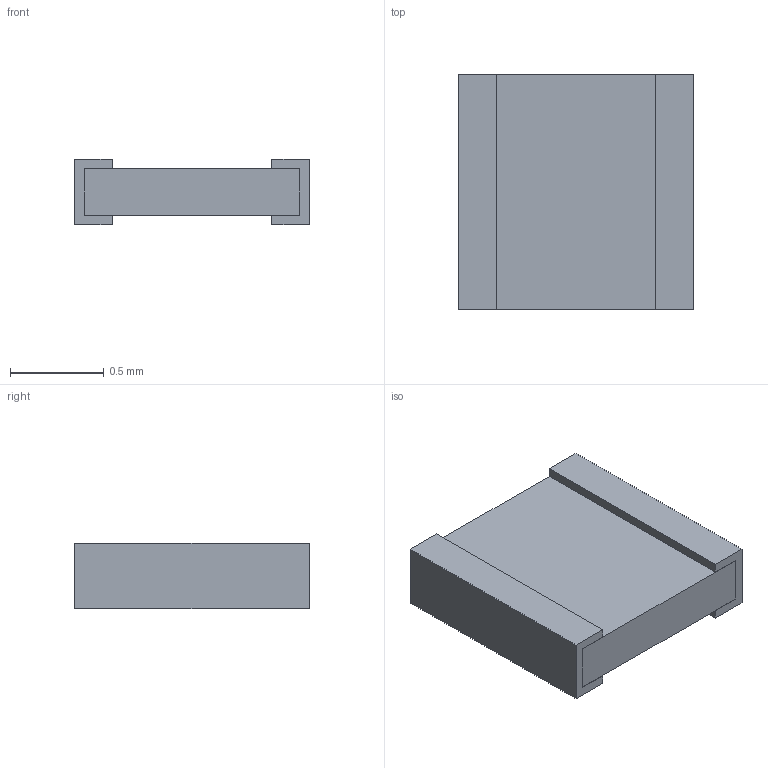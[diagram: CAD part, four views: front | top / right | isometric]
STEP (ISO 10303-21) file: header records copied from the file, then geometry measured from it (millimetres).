
FILE_DESCRIPTION(('STEP AP203'), '1');
FILE_NAME('0505', '', ('UNSPECIFIED'), ('UNSPECIFIED'), 'ASCON STEP Converter 1.6', 'ASCON Math Kernel', '');
FILE_SCHEMA(('CONFIG_CONTROL_DESIGN'));
Length unit declared in the file: millimetre
Bounding box: 1.25 x 1.25 x 0.35 mm (x, y, z)
Volume: 0.4 mm3; surface area: 7.7 mm2
Topology: 3 solids, 3 shells, 26 faces, 60 edges, 40 vertices
Faces by surface type: plane 26
Entity records: 988 total; most frequent: CARTESIAN_POINT 127, ORIENTED_EDGE 120, DIRECTION 114, EDGE_CURVE 60, LINE 60, VECTOR 60, VERTEX_POINT 40, COLOUR_RGB 29
